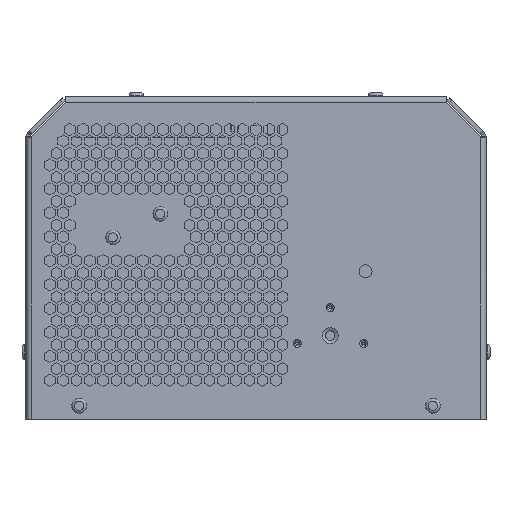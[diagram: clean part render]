
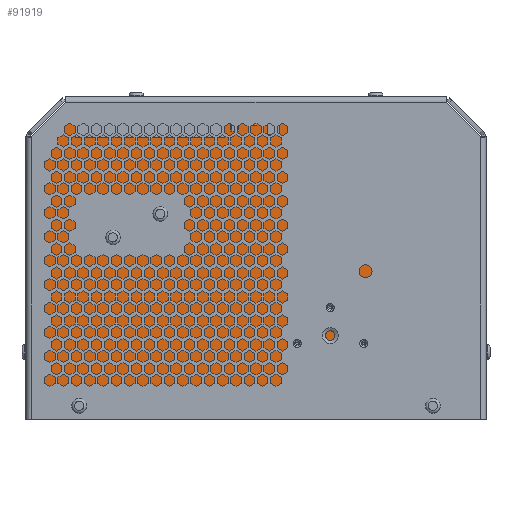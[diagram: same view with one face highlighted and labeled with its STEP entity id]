
A CAD part, left-side view. The second image highlights one B-rep face of the part: STEP entity #91919.
In plain terms, the highlighted planar face has unit normal (-1, 0, 0).
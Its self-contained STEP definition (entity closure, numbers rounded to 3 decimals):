
#5035 = VERTEX_POINT ( 'NONE', #169030 ) ;
#14126 = ORIENTED_EDGE ( 'NONE', *, *, #198773, .F. ) ;
#15764 = VERTEX_POINT ( 'NONE', #57107 ) ;
#16381 = DIRECTION ( 'NONE',  ( 0., 0., -1. ) ) ;
#17570 = CARTESIAN_POINT ( 'NONE',  ( 63.496, 81.171, -54.65 ) ) ;
#36491 = CARTESIAN_POINT ( 'NONE',  ( 63.496, 81.171, -54.65 ) ) ;
#38279 = LINE ( 'NONE', #79484, #234433 ) ;
#47328 = DIRECTION ( 'NONE',  ( 0., 1., 0. ) ) ;
#50402 = CARTESIAN_POINT ( 'NONE',  ( 63.496, 81.171, 46.25 ) ) ;
#56379 = ORIENTED_EDGE ( 'NONE', *, *, #93945, .F. ) ;
#57107 = CARTESIAN_POINT ( 'NONE',  ( 63.496, -69.729, 57.95 ) ) ;
#57483 = VECTOR ( 'NONE', #188994, 1000. ) ;
#63074 = ORIENTED_EDGE ( 'NONE', *, *, #75246, .F. ) ;
#66924 = CARTESIAN_POINT ( 'NONE',  ( 63.496, -81.429, -54.65 ) ) ;
#69454 = LINE ( 'NONE', #90797, #57483 ) ;
#70397 = VECTOR ( 'NONE', #154798, 1000. ) ;
#72135 = CARTESIAN_POINT ( 'NONE',  ( 63.496, -19.729, 22.95 ) ) ;
#73237 = LINE ( 'NONE', #230347, #70397 ) ;
#75246 = EDGE_CURVE ( 'NONE', #235865, #5035, #99285, .T. ) ;
#78697 = ORIENTED_EDGE ( 'NONE', *, *, #169949, .F. ) ;
#79484 = CARTESIAN_POINT ( 'NONE',  ( 63.496, -69.729, 57.95 ) ) ;
#87462 = AXIS2_PLACEMENT_3D ( 'NONE', #72135, #88720, #127810 ) ;
#88720 = DIRECTION ( 'NONE',  ( 1., 0., 0. ) ) ;
#90797 = CARTESIAN_POINT ( 'NONE',  ( 63.496, 30.271, 57.95 ) ) ;
#91919 = ADVANCED_FACE ( 'NONE', ( #241905 ), #146152, .F. ) ;
#93945 = EDGE_CURVE ( 'NONE', #5035, #210881, #157554, .T. ) ;
#99285 = LINE ( 'NONE', #209028, #245044 ) ;
#100915 = VECTOR ( 'NONE', #47328, 1000. ) ;
#103500 = CARTESIAN_POINT ( 'NONE',  ( 63.496, 70.271, 57.95 ) ) ;
#127810 = DIRECTION ( 'NONE',  ( 0., 0., 1. ) ) ;
#128607 = VERTEX_POINT ( 'NONE', #103500 ) ;
#132986 = ORIENTED_EDGE ( 'NONE', *, *, #144542, .F. ) ;
#139744 = EDGE_LOOP ( 'NONE', ( #193396, #132986, #78697, #14126, #56379, #63074 ) ) ;
#144542 = EDGE_CURVE ( 'NONE', #128607, #15764, #69454, .T. ) ;
#146152 = PLANE ( 'NONE',  #87462 ) ;
#154798 = DIRECTION ( 'NONE',  ( 0., -0.682, 0.732 ) ) ;
#157554 = LINE ( 'NONE', #66924, #100915 ) ;
#158705 = EDGE_CURVE ( 'NONE', #15764, #235865, #38279, .T. ) ;
#169030 = CARTESIAN_POINT ( 'NONE',  ( 63.496, -81.429, -54.65 ) ) ;
#169308 = VERTEX_POINT ( 'NONE', #50402 ) ;
#169949 = EDGE_CURVE ( 'NONE', #169308, #128607, #73237, .T. ) ;
#188994 = DIRECTION ( 'NONE',  ( 0., -1., 0. ) ) ;
#192756 = LINE ( 'NONE', #36491, #210286 ) ;
#193396 = ORIENTED_EDGE ( 'NONE', *, *, #158705, .F. ) ;
#198773 = EDGE_CURVE ( 'NONE', #210881, #169308, #192756, .T. ) ;
#209028 = CARTESIAN_POINT ( 'NONE',  ( 63.496, -81.429, 46.25 ) ) ;
#210286 = VECTOR ( 'NONE', #224295, 1000. ) ;
#210881 = VERTEX_POINT ( 'NONE', #17570 ) ;
#224295 = DIRECTION ( 'NONE',  ( 0., 0., 1. ) ) ;
#229943 = DIRECTION ( 'NONE',  ( 0., -0.707, -0.707 ) ) ;
#230347 = CARTESIAN_POINT ( 'NONE',  ( 63.496, 81.171, 46.25 ) ) ;
#233438 = CARTESIAN_POINT ( 'NONE',  ( 63.496, -81.429, 46.25 ) ) ;
#234433 = VECTOR ( 'NONE', #229943, 1000. ) ;
#235865 = VERTEX_POINT ( 'NONE', #233438 ) ;
#241905 = FACE_OUTER_BOUND ( 'NONE', #139744, .T. ) ;
#245044 = VECTOR ( 'NONE', #16381, 1000. ) ;
